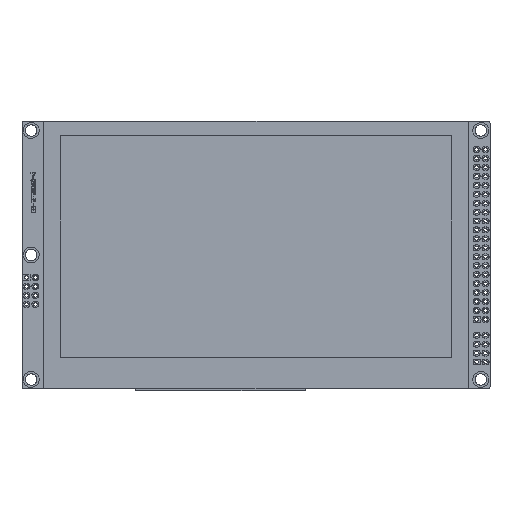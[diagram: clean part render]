
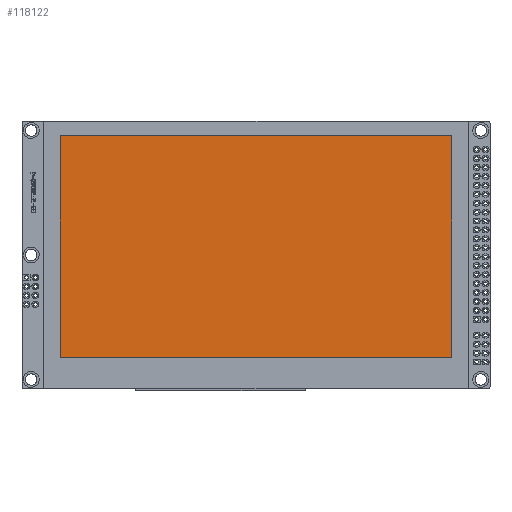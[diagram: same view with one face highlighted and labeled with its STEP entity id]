
A CAD part, top view. The second image highlights one B-rep face of the part: STEP entity #118122.
In plain terms, the highlighted free-form (B-spline) face has degree [1, 1] with [2, 2] control points.
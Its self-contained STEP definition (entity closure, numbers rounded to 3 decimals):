
#108=(GEOMETRIC_REPRESENTATION_CONTEXT(2)PARAMETRIC_REPRESENTATION_CONTEXT()REPRESENTATION_CONTEXT('',''));
#42246=CARTESIAN_POINT('',(10.91,71.7,0.8));
#42247=CARTESIAN_POINT('',(121.79,71.7,0.8));
#42248=CARTESIAN_POINT('',(10.91,71.7,4.));
#42249=CARTESIAN_POINT('',(121.79,71.7,4.));
#42250=B_SPLINE_SURFACE_WITH_KNOTS('',1,1,((#42246,#42247),(#42248,#42249)),.UNSPECIFIED.,.F.,.F.,.U.,(2,2),(2,2),(-0.003,0.),(0.011,0.122),.UNSPECIFIED.);
#42269=CARTESIAN_POINT('',(121.79,8.868,4.));
#42270=CARTESIAN_POINT('',(121.79,71.7,4.));
#42271=CARTESIAN_POINT('',(121.79,8.868,0.8));
#42272=CARTESIAN_POINT('',(121.79,71.7,0.8));
#42273=B_SPLINE_SURFACE_WITH_KNOTS('',1,1,((#42269,#42270),(#42271,#42272)),.UNSPECIFIED.,.F.,.F.,.U.,(2,2),(2,2),(0.,0.003),(0.009,0.072),.UNSPECIFIED.);
#42292=CARTESIAN_POINT('',(10.91,8.868,4.));
#42293=CARTESIAN_POINT('',(121.79,8.868,4.));
#42294=CARTESIAN_POINT('',(10.91,8.868,0.8));
#42295=CARTESIAN_POINT('',(121.79,8.868,0.8));
#42296=B_SPLINE_SURFACE_WITH_KNOTS('',1,1,((#42292,#42293),(#42294,#42295)),.UNSPECIFIED.,.F.,.F.,.U.,(2,2),(2,2),(0.,0.003),(0.011,0.122),.UNSPECIFIED.);
#42313=CARTESIAN_POINT('',(10.91,8.868,0.8));
#42314=CARTESIAN_POINT('',(10.91,71.7,0.8));
#42315=CARTESIAN_POINT('',(10.91,8.868,4.));
#42316=CARTESIAN_POINT('',(10.91,71.7,4.));
#42317=B_SPLINE_SURFACE_WITH_KNOTS('',1,1,((#42313,#42314),(#42315,#42316)),.UNSPECIFIED.,.F.,.F.,.U.,(2,2),(2,2),(-0.003,0.),(0.009,0.072),.UNSPECIFIED.);
#117952=CARTESIAN_POINT('',(10.91,71.7,4.));
#117953=VERTEX_POINT('',#117952);
#117970=CARTESIAN_POINT('',(121.79,71.7,4.));
#117971=VERTEX_POINT('',#117970);
#117972=CARTESIAN_POINT('',(121.79,8.868,4.));
#117973=CARTESIAN_POINT('',(121.79,71.7,4.));
#117974=CARTESIAN_POINT('',(10.91,8.868,4.));
#117975=CARTESIAN_POINT('',(10.91,71.7,4.));
#117976=B_SPLINE_SURFACE_WITH_KNOTS('',1,1,((#117972,#117973),(#117974,#117975)),.UNSPECIFIED.,.F.,.F.,.U.,(2,2),(2,2),(-0.122,-0.011),(0.009,0.072),.UNSPECIFIED.);
#117977=CARTESIAN_POINT('',(0.,0.011));
#117978=CARTESIAN_POINT('',(0.,0.122));
#117979=B_SPLINE_CURVE_WITH_KNOTS('',1,(#117977,#117978),.UNSPECIFIED.,.F.,.F.,(2,2),(0.011,0.122),.UNSPECIFIED.);
#117980=DEFINITIONAL_REPRESENTATION('',(#117979),#108);
#117981=PCURVE('',#42250,#117980);
#117982=CARTESIAN_POINT('',(-0.011,0.072));
#117983=CARTESIAN_POINT('',(-0.122,0.072));
#117984=B_SPLINE_CURVE_WITH_KNOTS('',1,(#117982,#117983),.UNSPECIFIED.,.F.,.F.,(2,2),(0.011,0.122),.UNSPECIFIED.);
#117985=DEFINITIONAL_REPRESENTATION('',(#117984),#108);
#117986=PCURVE('',#117976,#117985);
#117987=CARTESIAN_POINT('',(10.91,71.7,4.));
#117988=CARTESIAN_POINT('',(121.79,71.7,4.));
#117989=B_SPLINE_CURVE_WITH_KNOTS('',1,(#117987,#117988),.UNSPECIFIED.,.F.,.F.,(2,2),(0.011,0.122),.UNSPECIFIED.);
#117990=INTERSECTION_CURVE('',#117989,(#117981,#117986),.PCURVE_S1.);
#117991=EDGE_CURVE('',#117953,#117971,#117990,.T.);
#118014=CARTESIAN_POINT('',(10.91,8.868,4.));
#118015=VERTEX_POINT('',#118014);
#118032=CARTESIAN_POINT('',(0.,0.009));
#118033=CARTESIAN_POINT('',(0.,0.072));
#118034=B_SPLINE_CURVE_WITH_KNOTS('',1,(#118032,#118033),.UNSPECIFIED.,.F.,.F.,(2,2),(0.009,0.072),.UNSPECIFIED.);
#118035=DEFINITIONAL_REPRESENTATION('',(#118034),#108);
#118036=PCURVE('',#42317,#118035);
#118037=CARTESIAN_POINT('',(-0.011,0.009));
#118038=CARTESIAN_POINT('',(-0.011,0.072));
#118039=B_SPLINE_CURVE_WITH_KNOTS('',1,(#118037,#118038),.UNSPECIFIED.,.F.,.F.,(2,2),(0.009,0.072),.UNSPECIFIED.);
#118040=DEFINITIONAL_REPRESENTATION('',(#118039),#108);
#118041=PCURVE('',#117976,#118040);
#118042=CARTESIAN_POINT('',(10.91,8.868,4.));
#118043=CARTESIAN_POINT('',(10.91,71.7,4.));
#118044=B_SPLINE_CURVE_WITH_KNOTS('',1,(#118042,#118043),.UNSPECIFIED.,.F.,.F.,(2,2),(0.009,0.072),.UNSPECIFIED.);
#118045=INTERSECTION_CURVE('',#118044,(#118036,#118041),.PCURVE_S1.);
#118046=EDGE_CURVE('',#118015,#117953,#118045,.T.);
#118054=CARTESIAN_POINT('',(121.79,8.868,4.));
#118055=VERTEX_POINT('',#118054);
#118072=CARTESIAN_POINT('',(0.,0.122));
#118073=CARTESIAN_POINT('',(0.,0.011));
#118074=B_SPLINE_CURVE_WITH_KNOTS('',1,(#118072,#118073),.UNSPECIFIED.,.F.,.F.,(2,2),(-0.122,-0.011),.UNSPECIFIED.);
#118075=DEFINITIONAL_REPRESENTATION('',(#118074),#108);
#118076=PCURVE('',#42296,#118075);
#118077=CARTESIAN_POINT('',(-0.122,0.009));
#118078=CARTESIAN_POINT('',(-0.011,0.009));
#118079=B_SPLINE_CURVE_WITH_KNOTS('',1,(#118077,#118078),.UNSPECIFIED.,.F.,.F.,(2,2),(-0.122,-0.011),.UNSPECIFIED.);
#118080=DEFINITIONAL_REPRESENTATION('',(#118079),#108);
#118081=PCURVE('',#117976,#118080);
#118082=CARTESIAN_POINT('',(121.79,8.868,4.));
#118083=CARTESIAN_POINT('',(10.91,8.868,4.));
#118084=B_SPLINE_CURVE_WITH_KNOTS('',1,(#118082,#118083),.UNSPECIFIED.,.F.,.F.,(2,2),(-0.122,-0.011),.UNSPECIFIED.);
#118085=INTERSECTION_CURVE('',#118084,(#118076,#118081),.PCURVE_S1.);
#118086=EDGE_CURVE('',#118055,#118015,#118085,.T.);
#118095=CARTESIAN_POINT('',(0.,0.072));
#118096=CARTESIAN_POINT('',(0.,0.009));
#118097=B_SPLINE_CURVE_WITH_KNOTS('',1,(#118095,#118096),.UNSPECIFIED.,.F.,.F.,(2,2),(-0.072,-0.009),.UNSPECIFIED.);
#118098=DEFINITIONAL_REPRESENTATION('',(#118097),#108);
#118099=PCURVE('',#42273,#118098);
#118100=CARTESIAN_POINT('',(-0.122,0.072));
#118101=CARTESIAN_POINT('',(-0.122,0.009));
#118102=B_SPLINE_CURVE_WITH_KNOTS('',1,(#118100,#118101),.UNSPECIFIED.,.F.,.F.,(2,2),(-0.072,-0.009),.UNSPECIFIED.);
#118103=DEFINITIONAL_REPRESENTATION('',(#118102),#108);
#118104=PCURVE('',#117976,#118103);
#118105=CARTESIAN_POINT('',(121.79,71.7,4.));
#118106=CARTESIAN_POINT('',(121.79,8.868,4.));
#118107=B_SPLINE_CURVE_WITH_KNOTS('',1,(#118105,#118106),.UNSPECIFIED.,.F.,.F.,(2,2),(-0.072,-0.009),.UNSPECIFIED.);
#118108=INTERSECTION_CURVE('',#118107,(#118099,#118104),.PCURVE_S1.);
#118109=EDGE_CURVE('',#117971,#118055,#118108,.T.);
#118116=ORIENTED_EDGE('',*,*,#117991,.F.);
#118117=ORIENTED_EDGE('',*,*,#118046,.F.);
#118118=ORIENTED_EDGE('',*,*,#118086,.F.);
#118119=ORIENTED_EDGE('',*,*,#118109,.F.);
#118120=EDGE_LOOP('',(#118116,#118117,#118118,#118119));
#118121=FACE_BOUND('',#118120,.T.);
#118122=ADVANCED_FACE('',(#118121),#117976,.F.);
